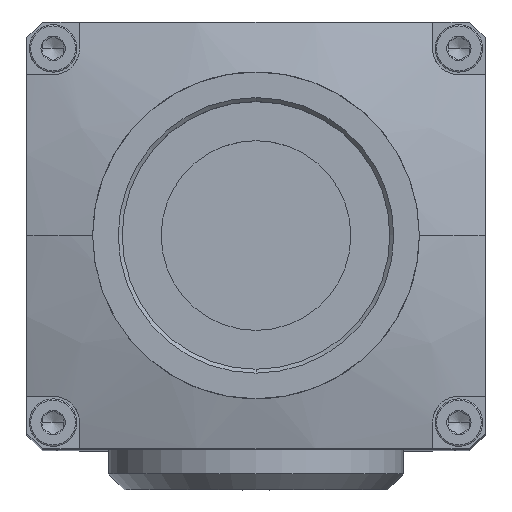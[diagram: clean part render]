
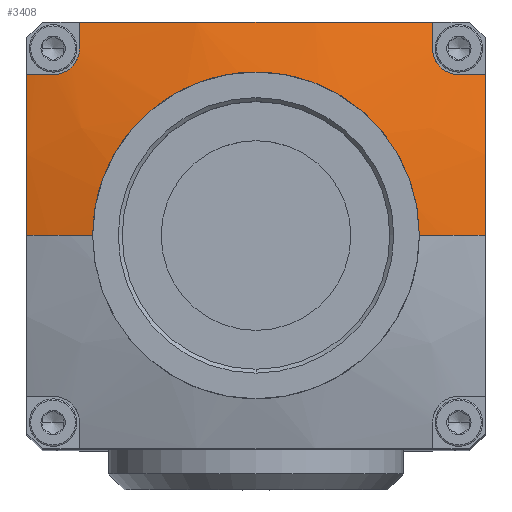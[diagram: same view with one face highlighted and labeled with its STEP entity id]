
A CAD part, top view. The second image highlights one B-rep face of the part: STEP entity #3408.
In plain terms, the highlighted spherical face has radius 80 mm.
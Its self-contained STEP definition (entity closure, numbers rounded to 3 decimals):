
#1807=SPHERICAL_SURFACE('',#126560,80.);
#3408=ADVANCED_FACE('',(#10480),#1807,.T.);
#10480=FACE_OUTER_BOUND('',#17590,.F.);
#17590=EDGE_LOOP('',(#26227,#26228,#26229,#26230,#26231,#26232,#26233,#26234,
#26235,#26236,#26237,#26238));
#26227=ORIENTED_EDGE('',*,*,#94870,.T.);
#26228=ORIENTED_EDGE('',*,*,#94871,.T.);
#26229=ORIENTED_EDGE('',*,*,#94872,.T.);
#26230=ORIENTED_EDGE('',*,*,#94861,.T.);
#26231=ORIENTED_EDGE('',*,*,#94873,.T.);
#26232=ORIENTED_EDGE('',*,*,#94874,.T.);
#26233=ORIENTED_EDGE('',*,*,#94875,.T.);
#26234=ORIENTED_EDGE('',*,*,#94863,.F.);
#26235=ORIENTED_EDGE('',*,*,#94865,.T.);
#26236=ORIENTED_EDGE('',*,*,#94876,.T.);
#26237=ORIENTED_EDGE('',*,*,#94869,.F.);
#26238=ORIENTED_EDGE('',*,*,#94859,.F.);
#65698=B_SPLINE_CURVE_WITH_KNOTS('',3,(#172378,#172379,#172380,#172381,#172382,
#172383),.UNSPECIFIED.,.F.,.F.,(4,1,1,4),(0.,0.389,0.611,
1.),.UNSPECIFIED.);
#65701=B_SPLINE_CURVE_WITH_KNOTS('',3,(#172397,#172398,#172399,#172400,#172401,
#172402),.UNSPECIFIED.,.F.,.F.,(4,1,1,4),(0.,0.389,0.611,
1.),.UNSPECIFIED.);
#65705=B_SPLINE_CURVE_WITH_KNOTS('',3,(#172447,#172448,#172449,#172450,#172451,
#172452,#172453,#172454,#172455),.UNSPECIFIED.,.F.,.F.,(4,1,1,1,1,1,4),(0.,
0.194,0.334,0.501,0.667,
0.806,1.),.UNSPECIFIED.);
#65706=B_SPLINE_CURVE_WITH_KNOTS('',3,(#172456,#172457,#172458,#172459,#172460,
#172461),.UNSPECIFIED.,.F.,.F.,(4,1,1,4),(0.,0.389,0.611,
1.),.UNSPECIFIED.);
#65707=B_SPLINE_CURVE_WITH_KNOTS('',3,(#172462,#172463,#172464,#172465,#172466,
#172467),.UNSPECIFIED.,.F.,.F.,(4,1,1,4),(0.,0.389,0.611,
1.),.UNSPECIFIED.);
#65708=B_SPLINE_CURVE_WITH_KNOTS('',3,(#172468,#172469,#172470,#172471,#172472,
#172473,#172474,#172475,#172476),.UNSPECIFIED.,.F.,.F.,(4,1,1,1,1,1,4),(0.,
0.194,0.333,0.499,0.666,
0.806,1.),.UNSPECIFIED.);
#65709=B_SPLINE_CURVE_WITH_KNOTS('',3,(#172478,#172479,#172480,#172481,#172482,
#172483,#172484,#172485,#172486,#172487,#172488,#172489,#172490,#172491,
#172492,#172493,#172494,#172495,#172496,#172497,#172498,#172499,#172500,
#172501,#172502),.UNSPECIFIED.,.F.,.F.,(4,1,1,1,1,1,1,1,1,1,1,1,1,1,1,1,
1,1,1,1,1,1,4),(0.,0.047,0.08,0.121,
0.163,0.206,0.25,0.297,
0.345,0.395,0.447,0.5,0.553,
0.605,0.655,0.703,0.75,
0.794,0.837,0.879,0.92,
0.953,1.),.UNSPECIFIED.);
#94859=EDGE_CURVE('',#115351,#115350,#65698,.T.);
#94861=EDGE_CURVE('',#115349,#115348,#112164,.T.);
#94863=EDGE_CURVE('',#115346,#115345,#65701,.T.);
#94865=EDGE_CURVE('',#115346,#115343,#112165,.T.);
#94869=EDGE_CURVE('',#115350,#115344,#112167,.T.);
#94870=EDGE_CURVE('',#115351,#115340,#112168,.T.);
#94871=EDGE_CURVE('',#115340,#115339,#65705,.T.);
#94872=EDGE_CURVE('',#115339,#115349,#65706,.T.);
#94873=EDGE_CURVE('',#115348,#115338,#65707,.T.);
#94874=EDGE_CURVE('',#115338,#115337,#65708,.T.);
#94875=EDGE_CURVE('',#115337,#115345,#112169,.T.);
#94876=EDGE_CURVE('',#115343,#115344,#65709,.T.);
#112164=CIRCLE('',#126480,77.395);
#112165=CIRCLE('',#126481,80.);
#112167=CIRCLE('',#126483,80.);
#112168=CIRCLE('',#126484,78.533);
#112169=CIRCLE('',#126485,78.533);
#115337=VERTEX_POINT('',#172180);
#115338=VERTEX_POINT('',#172181);
#115339=VERTEX_POINT('',#172182);
#115340=VERTEX_POINT('',#172183);
#115343=VERTEX_POINT('',#172186);
#115344=VERTEX_POINT('',#172187);
#115345=VERTEX_POINT('',#172188);
#115346=VERTEX_POINT('',#172189);
#115348=VERTEX_POINT('',#172191);
#115349=VERTEX_POINT('',#172192);
#115350=VERTEX_POINT('',#172193);
#115351=VERTEX_POINT('',#172194);
#126480=AXIS2_PLACEMENT_3D('',#172390,#137432,#137433);
#126481=AXIS2_PLACEMENT_3D('',#172428,#137434,#137435);
#126483=AXIS2_PLACEMENT_3D('',#172445,#137438,#137439);
#126484=AXIS2_PLACEMENT_3D('',#172446,#137440,#137441);
#126485=AXIS2_PLACEMENT_3D('',#172477,#137442,#137443);
#126560=AXIS2_PLACEMENT_3D('',#172732,#137695,#137696);
#137432=DIRECTION('',(0.,1.,0.));
#137433=DIRECTION('',(-0.216,0.,0.976));
#137434=DIRECTION('',(0.,-1.,0.));
#137435=DIRECTION('',(0.272,0.,0.962));
#137438=DIRECTION('',(0.,1.,0.));
#137439=DIRECTION('',(-0.272,0.,0.962));
#137440=DIRECTION('',(0.,1.,0.));
#137441=DIRECTION('',(-0.277,0.,0.961));
#137442=DIRECTION('',(0.,1.,0.));
#137443=DIRECTION('',(0.245,0.,0.969));
#137695=DIRECTION('',(0.,1.,0.));
#137696=DIRECTION('',(-0.36,0.,0.933));
#172180=CARTESIAN_POINT('',(24.007,14.805,41.28));
#172181=CARTESIAN_POINT('',(21.507,17.305,41.329));
#172182=CARTESIAN_POINT('',(-11.993,17.305,41.329));
#172183=CARTESIAN_POINT('',(-14.493,14.805,41.28));
#172186=CARTESIAN_POINT('',(20.257,-0.445,43.627));
#172187=CARTESIAN_POINT('',(-10.743,-0.445,43.627));
#172188=CARTESIAN_POINT('',(26.507,14.805,40.604));
#172189=CARTESIAN_POINT('',(26.507,-0.445,42.13));
#172191=CARTESIAN_POINT('',(21.507,19.805,40.703));
#172192=CARTESIAN_POINT('',(-11.993,19.805,40.703));
#172193=CARTESIAN_POINT('',(-16.993,-0.445,42.13));
#172194=CARTESIAN_POINT('',(-16.993,14.805,40.604));
#172378=CARTESIAN_POINT('',(-16.993,14.805,40.604));
#172379=CARTESIAN_POINT('',(-16.993,12.854,40.998));
#172380=CARTESIAN_POINT('',(-16.993,9.765,41.499));
#172381=CARTESIAN_POINT('',(-16.993,4.671,42.008));
#172382=CARTESIAN_POINT('',(-16.993,1.545,42.13));
#172383=CARTESIAN_POINT('',(-16.993,-0.445,42.13));
#172390=CARTESIAN_POINT('',(4.757,19.805,-34.857));
#172397=CARTESIAN_POINT('',(26.507,-0.445,42.13));
#172398=CARTESIAN_POINT('',(26.507,1.545,42.13));
#172399=CARTESIAN_POINT('',(26.507,4.671,42.008));
#172400=CARTESIAN_POINT('',(26.507,9.765,41.499));
#172401=CARTESIAN_POINT('',(26.507,12.854,40.998));
#172402=CARTESIAN_POINT('',(26.507,14.805,40.604));
#172428=CARTESIAN_POINT('',(4.757,-0.445,-34.857));
#172445=CARTESIAN_POINT('',(4.757,-0.445,-34.857));
#172446=CARTESIAN_POINT('',(4.757,14.805,-34.857));
#172447=CARTESIAN_POINT('',(-14.493,14.805,41.28));
#172448=CARTESIAN_POINT('',(-14.244,14.804,41.343));
#172449=CARTESIAN_POINT('',(-13.814,14.869,41.437));
#172450=CARTESIAN_POINT('',(-13.207,15.132,41.529));
#172451=CARTESIAN_POINT('',(-12.705,15.515,41.566));
#172452=CARTESIAN_POINT('',(-12.322,16.017,41.546));
#172453=CARTESIAN_POINT('',(-12.058,16.624,41.472));
#172454=CARTESIAN_POINT('',(-11.993,17.055,41.387));
#172455=CARTESIAN_POINT('',(-11.993,17.305,41.329));
#172456=CARTESIAN_POINT('',(-11.993,17.305,41.329));
#172457=CARTESIAN_POINT('',(-11.993,17.63,41.254));
#172458=CARTESIAN_POINT('',(-11.993,18.14,41.131));
#172459=CARTESIAN_POINT('',(-11.993,18.974,40.922));
#172460=CARTESIAN_POINT('',(-11.993,19.482,40.79));
#172461=CARTESIAN_POINT('',(-11.993,19.805,40.703));
#172462=CARTESIAN_POINT('',(21.507,19.805,40.703));
#172463=CARTESIAN_POINT('',(21.507,19.482,40.79));
#172464=CARTESIAN_POINT('',(21.507,18.974,40.922));
#172465=CARTESIAN_POINT('',(21.507,18.14,41.131));
#172466=CARTESIAN_POINT('',(21.507,17.63,41.254));
#172467=CARTESIAN_POINT('',(21.507,17.305,41.329));
#172468=CARTESIAN_POINT('',(21.507,17.305,41.329));
#172469=CARTESIAN_POINT('',(21.507,17.055,41.388));
#172470=CARTESIAN_POINT('',(21.571,16.624,41.471));
#172471=CARTESIAN_POINT('',(21.835,16.017,41.546));
#172472=CARTESIAN_POINT('',(22.219,15.515,41.566));
#172473=CARTESIAN_POINT('',(22.721,15.132,41.528));
#172474=CARTESIAN_POINT('',(23.327,14.869,41.437));
#172475=CARTESIAN_POINT('',(23.758,14.804,41.343));
#172476=CARTESIAN_POINT('',(24.007,14.805,41.28));
#172477=CARTESIAN_POINT('',(4.757,14.805,-34.857));
#172478=CARTESIAN_POINT('',(20.257,-0.445,43.627));
#172479=CARTESIAN_POINT('',(20.257,0.312,43.627));
#172480=CARTESIAN_POINT('',(20.161,1.615,43.627));
#172481=CARTESIAN_POINT('',(19.771,3.547,43.627));
#172482=CARTESIAN_POINT('',(19.182,5.344,43.627));
#172483=CARTESIAN_POINT('',(18.3,7.186,43.627));
#172484=CARTESIAN_POINT('',(17.151,8.943,43.627));
#172485=CARTESIAN_POINT('',(15.724,10.582,43.627));
#172486=CARTESIAN_POINT('',(14.012,12.059,43.627));
#172487=CARTESIAN_POINT('',(12.021,13.317,43.627));
#172488=CARTESIAN_POINT('',(9.772,14.291,43.627));
#172489=CARTESIAN_POINT('',(7.321,14.912,43.627));
#172490=CARTESIAN_POINT('',(4.757,15.126,43.627));
#172491=CARTESIAN_POINT('',(2.193,14.912,43.627));
#172492=CARTESIAN_POINT('',(-0.258,14.291,43.627));
#172493=CARTESIAN_POINT('',(-2.507,13.317,43.627));
#172494=CARTESIAN_POINT('',(-4.499,12.059,43.627));
#172495=CARTESIAN_POINT('',(-6.21,10.582,43.627));
#172496=CARTESIAN_POINT('',(-7.637,8.943,43.627));
#172497=CARTESIAN_POINT('',(-8.787,7.186,43.627));
#172498=CARTESIAN_POINT('',(-9.668,5.344,43.627));
#172499=CARTESIAN_POINT('',(-10.257,3.547,43.627));
#172500=CARTESIAN_POINT('',(-10.647,1.615,43.627));
#172501=CARTESIAN_POINT('',(-10.743,0.312,43.627));
#172502=CARTESIAN_POINT('',(-10.743,-0.445,43.627));
#172732=CARTESIAN_POINT('',(4.757,-0.445,-34.857));
